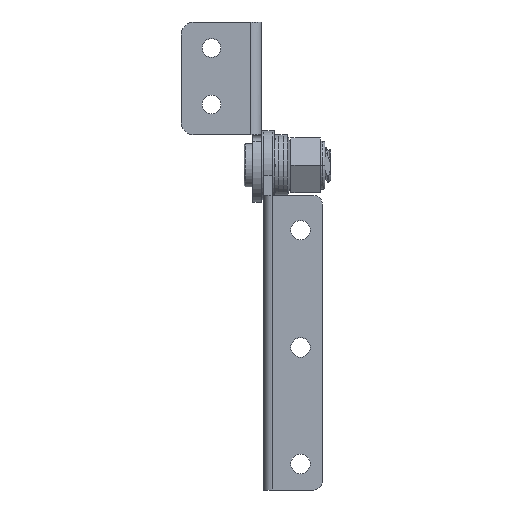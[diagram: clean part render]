
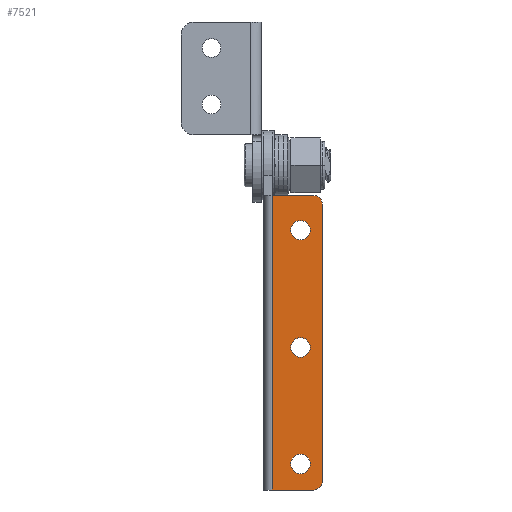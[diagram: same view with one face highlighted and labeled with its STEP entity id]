
A CAD part, front view. The second image highlights one B-rep face of the part: STEP entity #7521.
In plain terms, the highlighted planar face has unit normal (0, -1, 0).
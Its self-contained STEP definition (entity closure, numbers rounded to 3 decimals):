
#123 = CARTESIAN_POINT ( 'NONE',  ( 27.5, -0.06, -74.96 ) ) ;
#185 = EDGE_CURVE ( 'NONE', #5626, #3060, #5075, .T. ) ;
#311 = ORIENTED_EDGE ( 'NONE', *, *, #10414, .F. ) ;
#353 = ORIENTED_EDGE ( 'NONE', *, *, #3438, .T. ) ;
#488 = ORIENTED_EDGE ( 'NONE', *, *, #9702, .F. ) ;
#513 = CARTESIAN_POINT ( 'NONE',  ( 21., -0.06, -107.81 ) ) ;
#738 = CARTESIAN_POINT ( 'NONE',  ( 19., -0.06, -73.885 ) ) ;
#1136 = VERTEX_POINT ( 'NONE', #1536 ) ;
#1293 = VERTEX_POINT ( 'NONE', #5466 ) ;
#1328 = CIRCLE ( 'NONE', #6128, 2.25 ) ;
#1424 = EDGE_LOOP ( 'NONE', ( #7842, #10330 ) ) ;
#1528 = VERTEX_POINT ( 'NONE', #4931 ) ;
#1536 = CARTESIAN_POINT ( 'NONE',  ( 27.5, -0.06, -99.56 ) ) ;
#1581 = DIRECTION ( 'NONE',  ( 0., -1., 0. ) ) ;
#1750 = CIRCLE ( 'NONE', #1939, 2.25 ) ;
#1805 = DIRECTION ( 'NONE',  ( 0., 0., -1. ) ) ;
#1840 = CIRCLE ( 'NONE', #9364, 2. ) ;
#1895 = VERTEX_POINT ( 'NONE', #8342 ) ;
#1939 = AXIS2_PLACEMENT_3D ( 'NONE', #7060, #1581, #7853 ) ;
#2075 = CARTESIAN_POINT ( 'NONE',  ( 27.5, -0.06, -101.81 ) ) ;
#2093 = CARTESIAN_POINT ( 'NONE',  ( 21., -0.06, -107.81 ) ) ;
#2357 = DIRECTION ( 'NONE',  ( 0., -1., 0. ) ) ;
#2473 = EDGE_LOOP ( 'NONE', ( #3784, #3672 ) ) ;
#2692 = CARTESIAN_POINT ( 'NONE',  ( 32.5, -0.06, -41.96 ) ) ;
#3060 = VERTEX_POINT ( 'NONE', #3528 ) ;
#3223 = LINE ( 'NONE', #5142, #8098 ) ;
#3242 = CARTESIAN_POINT ( 'NONE',  ( 30.5, -0.06, -41.96 ) ) ;
#3266 = EDGE_CURVE ( 'NONE', #1293, #10039, #5721, .T. ) ;
#3383 = VECTOR ( 'NONE', #7207, 1000. ) ;
#3438 = EDGE_CURVE ( 'NONE', #5626, #5962, #10840, .T. ) ;
#3455 = AXIS2_PLACEMENT_3D ( 'NONE', #2075, #4848, #11128 ) ;
#3528 = CARTESIAN_POINT ( 'NONE',  ( 30.5, -0.06, -107.81 ) ) ;
#3630 = DIRECTION ( 'NONE',  ( -1., 0., 0. ) ) ;
#3672 = ORIENTED_EDGE ( 'NONE', *, *, #8444, .F. ) ;
#3698 = EDGE_LOOP ( 'NONE', ( #353, #9867, #7409, #488, #4355, #6575 ) ) ;
#3784 = ORIENTED_EDGE ( 'NONE', *, *, #10203, .F. ) ;
#3800 = EDGE_CURVE ( 'NONE', #1528, #5962, #1840, .T. ) ;
#3839 = DIRECTION ( 'NONE',  ( 1., 0., 0. ) ) ;
#3863 = AXIS2_PLACEMENT_3D ( 'NONE', #8081, #2357, #9781 ) ;
#4266 = VECTOR ( 'NONE', #6078, 1000. ) ;
#4355 = ORIENTED_EDGE ( 'NONE', *, *, #5263, .T. ) ;
#4848 = DIRECTION ( 'NONE',  ( 0., -1., 0. ) ) ;
#4931 = CARTESIAN_POINT ( 'NONE',  ( 30.5, -0.06, -39.96 ) ) ;
#4997 = CIRCLE ( 'NONE', #3455, 2.25 ) ;
#5075 = CIRCLE ( 'NONE', #8166, 2. ) ;
#5142 = CARTESIAN_POINT ( 'NONE',  ( 21., -0.06, -107.81 ) ) ;
#5172 = VECTOR ( 'NONE', #3839, 1000. ) ;
#5263 = EDGE_CURVE ( 'NONE', #9759, #3060, #11271, .T. ) ;
#5373 = FACE_OUTER_BOUND ( 'NONE', #3698, .T. ) ;
#5466 = CARTESIAN_POINT ( 'NONE',  ( 27.5, -0.06, -77.21 ) ) ;
#5518 = CARTESIAN_POINT ( 'NONE',  ( 27.5, -0.06, -104.06 ) ) ;
#5527 = CARTESIAN_POINT ( 'NONE',  ( 27.5, -0.06, -74.96 ) ) ;
#5626 = VERTEX_POINT ( 'NONE', #9550 ) ;
#5721 = CIRCLE ( 'NONE', #10706, 2.25 ) ;
#5829 = EDGE_LOOP ( 'NONE', ( #11572, #311 ) ) ;
#5894 = DIRECTION ( 'NONE',  ( 0., 0., 1. ) ) ;
#5962 = VERTEX_POINT ( 'NONE', #2692 ) ;
#5985 = DIRECTION ( 'NONE',  ( 0., -1., 0. ) ) ;
#6078 = DIRECTION ( 'NONE',  ( -1., 0., 0. ) ) ;
#6128 = AXIS2_PLACEMENT_3D ( 'NONE', #10580, #5985, #9565 ) ;
#6138 = CARTESIAN_POINT ( 'NONE',  ( 30.5, -0.06, -39.96 ) ) ;
#6290 = CARTESIAN_POINT ( 'NONE',  ( 32.5, -0.06, -105.81 ) ) ;
#6560 = DIRECTION ( 'NONE',  ( 0., -1., 0. ) ) ;
#6575 = ORIENTED_EDGE ( 'NONE', *, *, #185, .F. ) ;
#6689 = EDGE_CURVE ( 'NONE', #1136, #7243, #4997, .T. ) ;
#6781 = DIRECTION ( 'NONE',  ( 0., 0., 1. ) ) ;
#6897 = CARTESIAN_POINT ( 'NONE',  ( 21., -0.06, -39.96 ) ) ;
#7052 = LINE ( 'NONE', #6138, #4266 ) ;
#7060 = CARTESIAN_POINT ( 'NONE',  ( 27.5, -0.06, -47.96 ) ) ;
#7189 = PLANE ( 'NONE',  #8466 ) ;
#7207 = DIRECTION ( 'NONE',  ( 0., 0., 1. ) ) ;
#7243 = VERTEX_POINT ( 'NONE', #5518 ) ;
#7320 = CIRCLE ( 'NONE', #3863, 2.25 ) ;
#7359 = AXIS2_PLACEMENT_3D ( 'NONE', #5527, #6560, #9104 ) ;
#7409 = ORIENTED_EDGE ( 'NONE', *, *, #8830, .T. ) ;
#7434 = EDGE_CURVE ( 'NONE', #7243, #1136, #1328, .T. ) ;
#7521 = ADVANCED_FACE ( 'NONE', ( #9009, #11849, #8103, #5373 ), #7189, .T. ) ;
#7842 = ORIENTED_EDGE ( 'NONE', *, *, #7434, .F. ) ;
#7853 = DIRECTION ( 'NONE',  ( 0., 0., 1. ) ) ;
#7890 = DIRECTION ( 'NONE',  ( 0., 1., 0. ) ) ;
#8081 = CARTESIAN_POINT ( 'NONE',  ( 27.5, -0.06, -47.96 ) ) ;
#8098 = VECTOR ( 'NONE', #6781, 1000. ) ;
#8103 = FACE_BOUND ( 'NONE', #5829, .T. ) ;
#8135 = CARTESIAN_POINT ( 'NONE',  ( 27.5, -0.06, -50.21 ) ) ;
#8166 = AXIS2_PLACEMENT_3D ( 'NONE', #8842, #9865, #11621 ) ;
#8261 = DIRECTION ( 'NONE',  ( 0., -1., 0. ) ) ;
#8342 = CARTESIAN_POINT ( 'NONE',  ( 27.5, -0.06, -45.71 ) ) ;
#8444 = EDGE_CURVE ( 'NONE', #1895, #11751, #1750, .T. ) ;
#8466 = AXIS2_PLACEMENT_3D ( 'NONE', #738, #9978, #3630 ) ;
#8524 = CIRCLE ( 'NONE', #7359, 2.25 ) ;
#8830 = EDGE_CURVE ( 'NONE', #1528, #9705, #7052, .T. ) ;
#8842 = CARTESIAN_POINT ( 'NONE',  ( 30.5, -0.06, -105.81 ) ) ;
#9009 = FACE_BOUND ( 'NONE', #2473, .T. ) ;
#9104 = DIRECTION ( 'NONE',  ( 0., 0., 1. ) ) ;
#9364 = AXIS2_PLACEMENT_3D ( 'NONE', #3242, #7890, #5894 ) ;
#9550 = CARTESIAN_POINT ( 'NONE',  ( 32.5, -0.06, -105.81 ) ) ;
#9565 = DIRECTION ( 'NONE',  ( 0., 0., -1. ) ) ;
#9702 = EDGE_CURVE ( 'NONE', #9759, #9705, #3223, .T. ) ;
#9705 = VERTEX_POINT ( 'NONE', #6897 ) ;
#9759 = VERTEX_POINT ( 'NONE', #513 ) ;
#9781 = DIRECTION ( 'NONE',  ( 0., 0., -1. ) ) ;
#9865 = DIRECTION ( 'NONE',  ( 0., 1., 0. ) ) ;
#9867 = ORIENTED_EDGE ( 'NONE', *, *, #3800, .F. ) ;
#9978 = DIRECTION ( 'NONE',  ( 0., -1., 0. ) ) ;
#10039 = VERTEX_POINT ( 'NONE', #10509 ) ;
#10203 = EDGE_CURVE ( 'NONE', #11751, #1895, #7320, .T. ) ;
#10330 = ORIENTED_EDGE ( 'NONE', *, *, #6689, .F. ) ;
#10414 = EDGE_CURVE ( 'NONE', #10039, #1293, #8524, .T. ) ;
#10509 = CARTESIAN_POINT ( 'NONE',  ( 27.5, -0.06, -72.71 ) ) ;
#10580 = CARTESIAN_POINT ( 'NONE',  ( 27.5, -0.06, -101.81 ) ) ;
#10706 = AXIS2_PLACEMENT_3D ( 'NONE', #123, #8261, #1805 ) ;
#10840 = LINE ( 'NONE', #6290, #3383 ) ;
#11128 = DIRECTION ( 'NONE',  ( 0., 0., 1. ) ) ;
#11271 = LINE ( 'NONE', #2093, #5172 ) ;
#11572 = ORIENTED_EDGE ( 'NONE', *, *, #3266, .F. ) ;
#11621 = DIRECTION ( 'NONE',  ( 1., 0., 0. ) ) ;
#11751 = VERTEX_POINT ( 'NONE', #8135 ) ;
#11849 = FACE_BOUND ( 'NONE', #1424, .T. ) ;
